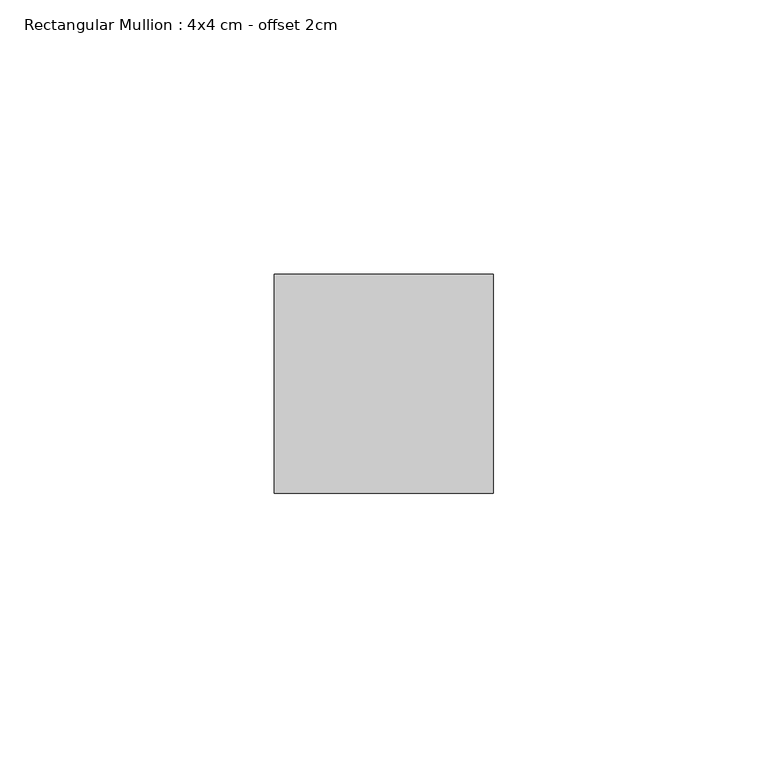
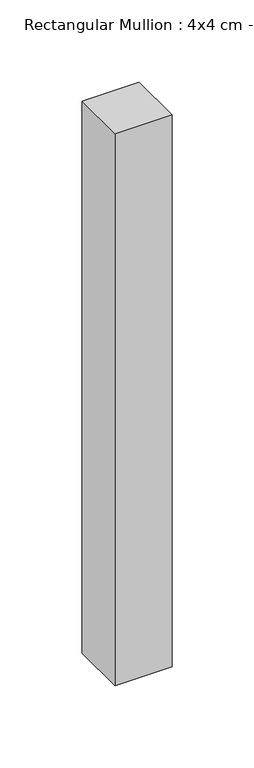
"""IFC4 building model written with IfcOpenShell, lengths in millimetres: member geometry, Rectangular Mullion : 4x4 cm - offset 2cm."""

from ifc_helpers import new_model, si_unit, frame, origin, place, context, project, spatial, polyline, outline, extrude, source, transform, mapped, element, save


def rectangular_mullion_4x4_cm_offset_2cm_647ac1ba(model_context):
    return source(origin(), model_context, "Body", "SweptSolid", [
        extrude(outline(polyline([(40.0, 40.0), (40.0, 0.0), (0.0, 0.0), (0.0, 40.0), (40.0, 40.0)])), frame((0.0, 0.0, -409.9999997), z_axis=(0.0, 0.0, 1.0), x_axis=(1.0, 0.0, 0.0)), (0.0, 0.0, 1.0), 409.9999997),
    ])


if __name__ == "__main__":
    model = new_model("IFC4")
    model_context = context("Model", 3, world=origin())
    ifc_project = project(units=[si_unit("LENGTHUNIT", "METRE", prefix="MILLI")], contexts=[model_context])
    site = spatial("IfcSite", under=ifc_project)
    building = spatial("IfcBuilding", under=site)
    placement = place(None, origin())
    rectangular_mullion_4x4_cm_offset_2cm_shape = rectangular_mullion_4x4_cm_offset_2cm_647ac1ba(model_context)
    element("IfcMember", 1, ObjectType="Rectangular Mullion : 4x4 cm - offset 2cm", at=placement, inside=building, context=model_context, shape_type="MappedRepresentation", body=[
        mapped(rectangular_mullion_4x4_cm_offset_2cm_shape, transform((0.0, 0.0, 0.0), x_axis=(1.0, 0.0, 0.0), y_axis=(0.0, 1.0, 0.0), z_axis=(0.0, 0.0, 1.0))),
    ])
    save(model, "model.ifc")
